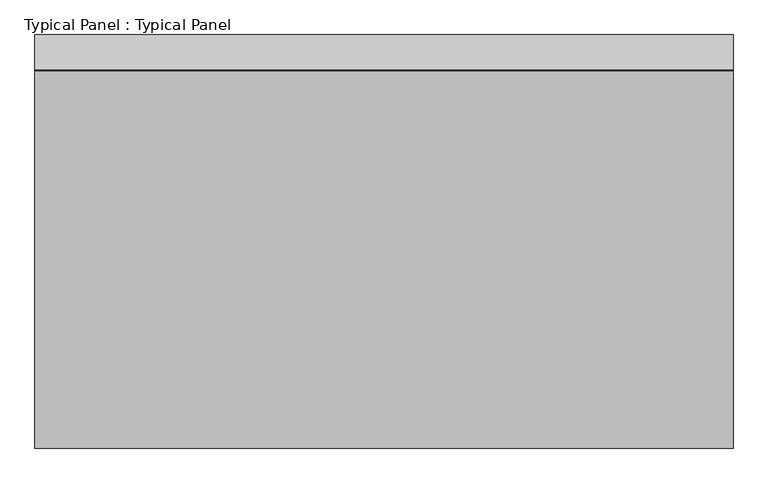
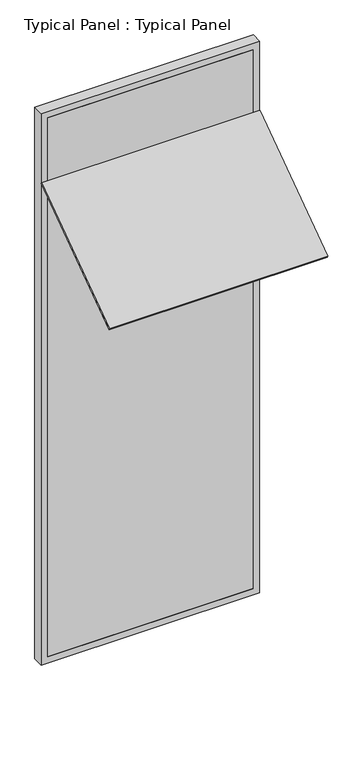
"""IFC4 building model written with IfcOpenShell, lengths in millimetres: plate geometry, Typical Panel : Typical Panel."""

from ifc_helpers import new_model, si_unit, frame, origin, place, context, project, spatial, polyline, outline, extrude, source, transform, mapped, element, save


def typical_panel_typical_panel_21f6f527(model_context):
    return source(origin(), model_context, "Body", "SweptSolid", [
        extrude(outline(polyline([(0.0, -990.0000001), (0.0, 0.0), (1500.0, 0.0), (1500.0, -990.0000001), (0.0, -990.0000001)])), frame((750.0, -810.2247595, 2923.9678076), z_axis=(0.0, -0.5735764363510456, 0.8191520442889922), x_axis=(-1.0, 0.0, 0.0)), (0.0, 0.0, 1.0), 10.0),
        extrude(outline(polyline([(0.0, -750.0), (0.0, 750.0), (4000.0, 750.0), (4000.0, -750.0), (0.0, -750.0)]), holes=[polyline([(45.0, 705.0), (45.0, -705.0), (3955.0, -705.0), (3955.0, 705.0), (45.0, 705.0)])]), frame((0.0, -1.5797986, 0.0), z_axis=(0.0, 1.0, 0.0), x_axis=(0.0, 0.0, 1.0)), (0.0, 0.0, 1.0), 75.0),
        extrude(outline(polyline([(705.0, -1.5797986), (-705.0, -1.5797986), (-705.0, 13.4202014), (705.0, 13.4202014), (705.0, -1.5797986)])), frame((0.0, 0.0, 45.0), z_axis=(0.0, 0.0, 1.0), x_axis=(1.0, 0.0, 0.0)), (0.0, 0.0, 1.0), 3910.0),
    ])


if __name__ == "__main__":
    model = new_model("IFC4")
    model_context = context("Model", 3, world=origin())
    ifc_project = project(units=[si_unit("LENGTHUNIT", "METRE", prefix="MILLI")], contexts=[model_context])
    site = spatial("IfcSite", under=ifc_project)
    building = spatial("IfcBuilding", under=site)
    placement = place(None, origin())
    typical_panel_typical_panel_shape = typical_panel_typical_panel_21f6f527(model_context)
    element("IfcPlate", 1, ObjectType="Typical Panel : Typical Panel", at=placement, inside=building, context=model_context, shape_type="MappedRepresentation", body=[
        mapped(typical_panel_typical_panel_shape, transform((0.0, 0.0, 0.0), x_axis=(1.0, 0.0, 0.0), y_axis=(0.0, 1.0, 0.0), z_axis=(0.0, 0.0, 1.0))),
    ])
    save(model, "model.ifc")
